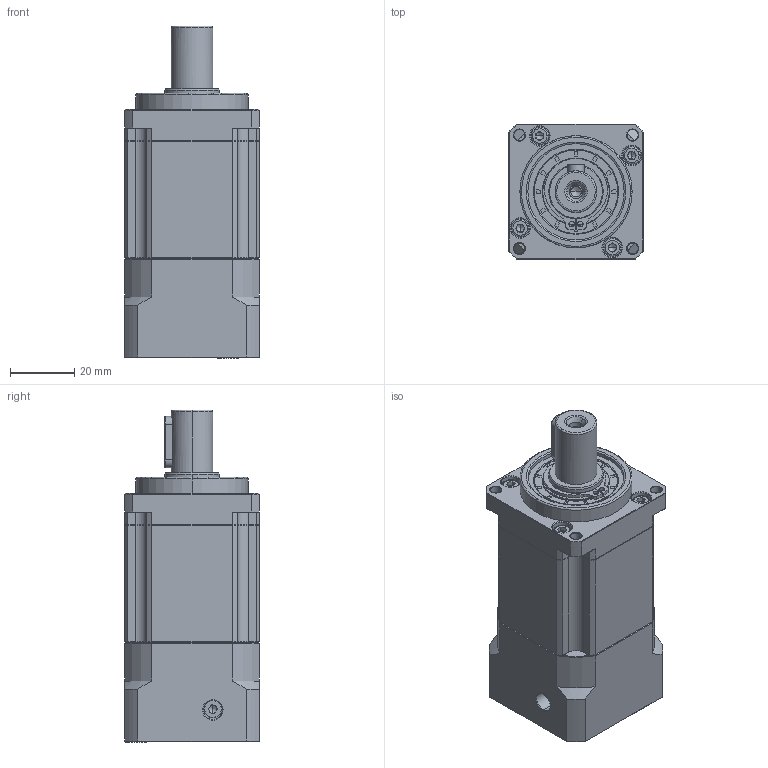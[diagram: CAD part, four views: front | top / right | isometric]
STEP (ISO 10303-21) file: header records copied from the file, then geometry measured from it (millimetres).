
FILE_DESCRIPTION (( 'STEP AP214' ), '1' );
FILE_NAME ('ZB040-L2-P2-8-30-46-M4.STEP', '2023-06-06T12:50:43', ( 'Windows 蚚誧' ), ( 'Organization' ), 'SwSTEP 2.0', 'SolidWorks 2016', '' );
FILE_SCHEMA (( 'AUTOMOTIVE_DESIGN' ));
Length unit declared in the file: millimetre
Products named in the file (1): ZB040-L2-P2-8-30-46-M4
Bounding box: 42 x 42 x 103.5 mm (x, y, z)
Volume: 123344.1 mm3; surface area: 29242.8 mm2
Topology: 6 solids, 6 shells, 1694 faces, 4386 edges, 2780 vertices
Faces by surface type: plane 675, cylinder 417, cone 303, bspline 279, torus 20
Entity records: 90114 total; most frequent: CARTESIAN_POINT 32690, ORIENTED_EDGE 8712, DIRECTION 7044, EDGE_CURVE 4356, VERTEX_POINT 2780, LINE 2436, VECTOR 2436, AXIS2_PLACEMENT_3D 2304
